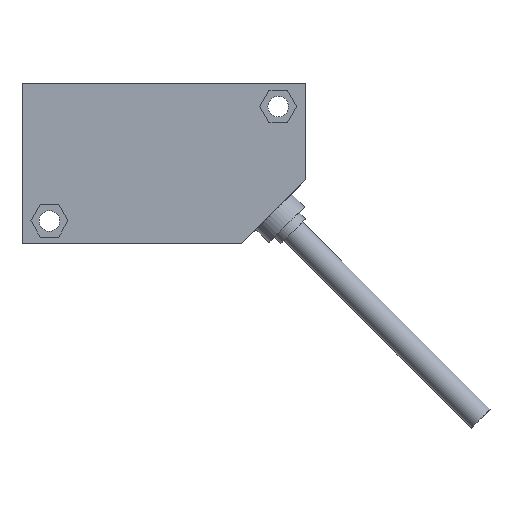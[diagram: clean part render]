
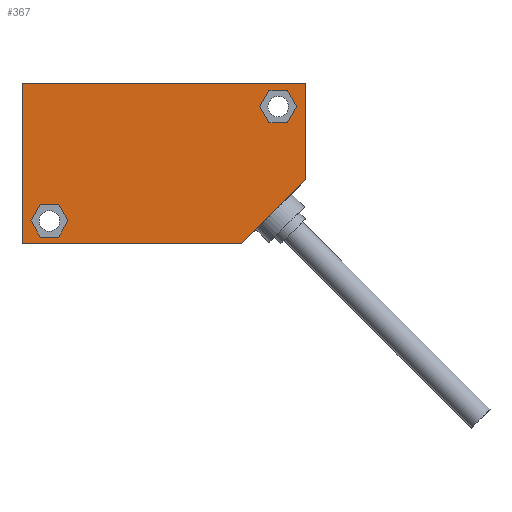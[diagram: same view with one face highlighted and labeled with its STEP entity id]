
A CAD part, left-side view. The second image highlights one B-rep face of the part: STEP entity #367.
In plain terms, the highlighted planar face has unit normal (-1, 0, 0).
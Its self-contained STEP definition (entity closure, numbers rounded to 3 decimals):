
#289 = VERTEX_POINT ( 'NONE', #1210 ) ;
#290 = ORIENTED_EDGE ( 'NONE', *, *, #291, .T. ) ;
#291 = EDGE_CURVE ( 'NONE', #293, #289, #1271, .T. ) ;
#292 = EDGE_CURVE ( 'NONE', #308, #293, #1267, .T. ) ;
#293 = VERTEX_POINT ( 'NONE', #1263 ) ;
#294 = ORIENTED_EDGE ( 'NONE', *, *, #295, .T. ) ;
#295 = EDGE_CURVE ( 'NONE', #306, #296, #1262, .T. ) ;
#296 = VERTEX_POINT ( 'NONE', #1258 ) ;
#297 = EDGE_CURVE ( 'NONE', #323, #299, #1257, .T. ) ;
#298 = ORIENTED_EDGE ( 'NONE', *, *, #307, .T. ) ;
#299 = VERTEX_POINT ( 'NONE', #1253 ) ;
#300 = ORIENTED_EDGE ( 'NONE', *, *, #301, .T. ) ;
#301 = EDGE_CURVE ( 'NONE', #299, #318, #1252, .T. ) ;
#302 = EDGE_LOOP ( 'NONE', ( #304, #294, #298, #309, #290, #364 ) ) ;
#303 = VERTEX_POINT ( 'NONE', #1248 ) ;
#304 = ORIENTED_EDGE ( 'NONE', *, *, #305, .T. ) ;
#305 = EDGE_CURVE ( 'NONE', #303, #306, #1247, .T. ) ;
#306 = VERTEX_POINT ( 'NONE', #1243 ) ;
#307 = EDGE_CURVE ( 'NONE', #296, #308, #1242, .T. ) ;
#308 = VERTEX_POINT ( 'NONE', #1303 ) ;
#309 = ORIENTED_EDGE ( 'NONE', *, *, #292, .T. ) ;
#310 = ORIENTED_EDGE ( 'NONE', *, *, #735, .F. ) ;
#311 = ORIENTED_EDGE ( 'NONE', *, *, #724, .T. ) ;
#312 = ORIENTED_EDGE ( 'NONE', *, *, #753, .F. ) ;
#313 = ORIENTED_EDGE ( 'NONE', *, *, #297, .T. ) ;
#314 = ORIENTED_EDGE ( 'NONE', *, *, #324, .T. ) ;
#315 = ORIENTED_EDGE ( 'NONE', *, *, #316, .T. ) ;
#316 = EDGE_CURVE ( 'NONE', #322, #323, #1302, .T. ) ;
#317 = EDGE_CURVE ( 'NONE', #318, #319, #1298, .T. ) ;
#318 = VERTEX_POINT ( 'NONE', #1294 ) ;
#319 = VERTEX_POINT ( 'NONE', #1293 ) ;
#320 = VERTEX_POINT ( 'NONE', #1292 ) ;
#321 = EDGE_CURVE ( 'NONE', #320, #322, #1291, .T. ) ;
#322 = VERTEX_POINT ( 'NONE', #1287 ) ;
#323 = VERTEX_POINT ( 'NONE', #1286 ) ;
#324 = EDGE_CURVE ( 'NONE', #319, #320, #1285, .T. ) ;
#325 = ORIENTED_EDGE ( 'NONE', *, *, #321, .T. ) ;
#328 = ORIENTED_EDGE ( 'NONE', *, *, #712, .F. ) ;
#329 = ORIENTED_EDGE ( 'NONE', *, *, #809, .F. ) ;
#364 = ORIENTED_EDGE ( 'NONE', *, *, #365, .T. ) ;
#365 = EDGE_CURVE ( 'NONE', #289, #303, #1355, .T. ) ;
#366 = EDGE_LOOP ( 'NONE', ( #312, #311, #310, #329, #328 ) ) ;
#367 = ADVANCED_FACE ( 'NONE', ( #1351, #1350, #1349 ), #1348, .F. ) ;
#368 = EDGE_LOOP ( 'NONE', ( #369, #314, #325, #315, #313, #300 ) ) ;
#369 = ORIENTED_EDGE ( 'NONE', *, *, #317, .T. ) ;
#699 = VERTEX_POINT ( 'NONE', #1949 ) ;
#712 = EDGE_CURVE ( 'NONE', #754, #699, #1927, .T. ) ;
#722 = VERTEX_POINT ( 'NONE', #1975 ) ;
#724 = EDGE_CURVE ( 'NONE', #725, #722, #1974, .T. ) ;
#725 = VERTEX_POINT ( 'NONE', #1970 ) ;
#735 = EDGE_CURVE ( 'NONE', #810, #722, #2019, .T. ) ;
#753 = EDGE_CURVE ( 'NONE', #725, #754, #2054, .T. ) ;
#754 = VERTEX_POINT ( 'NONE', #2050 ) ;
#809 = EDGE_CURVE ( 'NONE', #699, #810, #2098, .T. ) ;
#810 = VERTEX_POINT ( 'NONE', #2094 ) ;
#1210 = CARTESIAN_POINT ( 'NONE',  ( -9., -10.041, -30. ) ) ;
#1242 = LINE ( 'NONE', #1306, #1305 ) ;
#1243 = CARTESIAN_POINT ( 'NONE',  ( -9., -3.979, -33.5 ) ) ;
#1244 = DIRECTION ( 'NONE',  ( 0., 1., 0. ) ) ;
#1245 = VECTOR ( 'NONE', #1244, 1000. ) ;
#1246 = CARTESIAN_POINT ( 'NONE',  ( -9., -8.021, -33.5 ) ) ;
#1247 = LINE ( 'NONE', #1246, #1245 ) ;
#1248 = CARTESIAN_POINT ( 'NONE',  ( -9., -8.021, -33.5 ) ) ;
#1249 = DIRECTION ( 'NONE',  ( 0., -0.5, 0.866 ) ) ;
#1250 = VECTOR ( 'NONE', #1249, 1000. ) ;
#1251 = CARTESIAN_POINT ( 'NONE',  ( -9., -51.959, -5. ) ) ;
#1252 = LINE ( 'NONE', #1251, #1250 ) ;
#1253 = CARTESIAN_POINT ( 'NONE',  ( -9., -51.959, -5. ) ) ;
#1254 = DIRECTION ( 'NONE',  ( 0., 0.5, 0.866 ) ) ;
#1255 = VECTOR ( 'NONE', #1254, 1000. ) ;
#1256 = CARTESIAN_POINT ( 'NONE',  ( -9., -53.979, -8.5 ) ) ;
#1257 = LINE ( 'NONE', #1256, #1255 ) ;
#1258 = CARTESIAN_POINT ( 'NONE',  ( -9., -1.959, -30. ) ) ;
#1259 = DIRECTION ( 'NONE',  ( 0., 0.5, 0.866 ) ) ;
#1260 = VECTOR ( 'NONE', #1259, 1000. ) ;
#1261 = CARTESIAN_POINT ( 'NONE',  ( -9., -3.979, -33.5 ) ) ;
#1262 = LINE ( 'NONE', #1261, #1260 ) ;
#1263 = CARTESIAN_POINT ( 'NONE',  ( -9., -8.021, -26.5 ) ) ;
#1264 = DIRECTION ( 'NONE',  ( 0., -1., 0. ) ) ;
#1265 = VECTOR ( 'NONE', #1264, 1000. ) ;
#1266 = CARTESIAN_POINT ( 'NONE',  ( -9., -3.979, -26.5 ) ) ;
#1267 = LINE ( 'NONE', #1266, #1265 ) ;
#1268 = DIRECTION ( 'NONE',  ( 0., -0.5, -0.866 ) ) ;
#1269 = VECTOR ( 'NONE', #1268, 1000. ) ;
#1270 = CARTESIAN_POINT ( 'NONE',  ( -9., -8.021, -26.5 ) ) ;
#1271 = LINE ( 'NONE', #1270, #1269 ) ;
#1282 = DIRECTION ( 'NONE',  ( 0., -0.5, -0.866 ) ) ;
#1283 = VECTOR ( 'NONE', #1282, 1000. ) ;
#1284 = CARTESIAN_POINT ( 'NONE',  ( -9., -58.021, -1.5 ) ) ;
#1285 = LINE ( 'NONE', #1284, #1283 ) ;
#1286 = CARTESIAN_POINT ( 'NONE',  ( -9., -53.979, -8.5 ) ) ;
#1287 = CARTESIAN_POINT ( 'NONE',  ( -9., -58.021, -8.5 ) ) ;
#1288 = DIRECTION ( 'NONE',  ( 0., 0.5, -0.866 ) ) ;
#1289 = VECTOR ( 'NONE', #1288, 1000. ) ;
#1290 = CARTESIAN_POINT ( 'NONE',  ( -9., -60.041, -5. ) ) ;
#1291 = LINE ( 'NONE', #1290, #1289 ) ;
#1292 = CARTESIAN_POINT ( 'NONE',  ( -9., -60.041, -5. ) ) ;
#1293 = CARTESIAN_POINT ( 'NONE',  ( -9., -58.021, -1.5 ) ) ;
#1294 = CARTESIAN_POINT ( 'NONE',  ( -9., -53.979, -1.5 ) ) ;
#1295 = DIRECTION ( 'NONE',  ( 0., -1., 0. ) ) ;
#1296 = VECTOR ( 'NONE', #1295, 1000. ) ;
#1297 = CARTESIAN_POINT ( 'NONE',  ( -9., -53.979, -1.5 ) ) ;
#1298 = LINE ( 'NONE', #1297, #1296 ) ;
#1299 = DIRECTION ( 'NONE',  ( 0., 1., 0. ) ) ;
#1300 = VECTOR ( 'NONE', #1299, 1000. ) ;
#1301 = CARTESIAN_POINT ( 'NONE',  ( -9., -58.021, -8.5 ) ) ;
#1302 = LINE ( 'NONE', #1301, #1300 ) ;
#1303 = CARTESIAN_POINT ( 'NONE',  ( -9., -3.979, -26.5 ) ) ;
#1304 = DIRECTION ( 'NONE',  ( 0., -0.5, 0.866 ) ) ;
#1305 = VECTOR ( 'NONE', #1304, 1000. ) ;
#1306 = CARTESIAN_POINT ( 'NONE',  ( -9., -1.959, -30. ) ) ;
#1344 = DIRECTION ( 'NONE',  ( 0., 0., -1. ) ) ;
#1345 = DIRECTION ( 'NONE',  ( 1., 0., 0. ) ) ;
#1346 = CARTESIAN_POINT ( 'NONE',  ( -9., -62., 0. ) ) ;
#1347 = AXIS2_PLACEMENT_3D ( 'NONE', #1346, #1345, #1344 ) ;
#1348 = PLANE ( 'NONE',  #1347 ) ;
#1349 = FACE_OUTER_BOUND ( 'NONE', #366, .T. ) ;
#1350 = FACE_BOUND ( 'NONE', #302, .T. ) ;
#1351 = FACE_BOUND ( 'NONE', #368, .T. ) ;
#1352 = DIRECTION ( 'NONE',  ( 0., 0.5, -0.866 ) ) ;
#1353 = VECTOR ( 'NONE', #1352, 1000. ) ;
#1354 = CARTESIAN_POINT ( 'NONE',  ( -9., -10.041, -30. ) ) ;
#1355 = LINE ( 'NONE', #1354, #1353 ) ;
#1925 = VECTOR ( 'NONE', #1992, 1000. ) ;
#1926 = CARTESIAN_POINT ( 'NONE',  ( -9., 0., 0. ) ) ;
#1927 = LINE ( 'NONE', #1926, #1925 ) ;
#1949 = CARTESIAN_POINT ( 'NONE',  ( -9., 0., 0. ) ) ;
#1970 = CARTESIAN_POINT ( 'NONE',  ( -9., -48., -35. ) ) ;
#1971 = DIRECTION ( 'NONE',  ( 0., -0.707, 0.707 ) ) ;
#1972 = VECTOR ( 'NONE', #1971, 1000. ) ;
#1973 = CARTESIAN_POINT ( 'NONE',  ( -9., -48., -35. ) ) ;
#1974 = LINE ( 'NONE', #1973, #1972 ) ;
#1975 = CARTESIAN_POINT ( 'NONE',  ( -9., -62., -21. ) ) ;
#1992 = DIRECTION ( 'NONE',  ( 0., 0., 1. ) ) ;
#2016 = DIRECTION ( 'NONE',  ( 0., 0., -1. ) ) ;
#2017 = VECTOR ( 'NONE', #2016, 1000. ) ;
#2018 = CARTESIAN_POINT ( 'NONE',  ( -9., -62., 0. ) ) ;
#2019 = LINE ( 'NONE', #2018, #2017 ) ;
#2050 = CARTESIAN_POINT ( 'NONE',  ( -9., 0., -35. ) ) ;
#2051 = DIRECTION ( 'NONE',  ( 0., 1., 0. ) ) ;
#2052 = VECTOR ( 'NONE', #2051, 1000. ) ;
#2053 = CARTESIAN_POINT ( 'NONE',  ( -9., 0., -35. ) ) ;
#2054 = LINE ( 'NONE', #2053, #2052 ) ;
#2094 = CARTESIAN_POINT ( 'NONE',  ( -9., -62., 0. ) ) ;
#2095 = DIRECTION ( 'NONE',  ( 0., -1., 0. ) ) ;
#2096 = VECTOR ( 'NONE', #2095, 1000. ) ;
#2097 = CARTESIAN_POINT ( 'NONE',  ( -9., 0., 0. ) ) ;
#2098 = LINE ( 'NONE', #2097, #2096 ) ;
